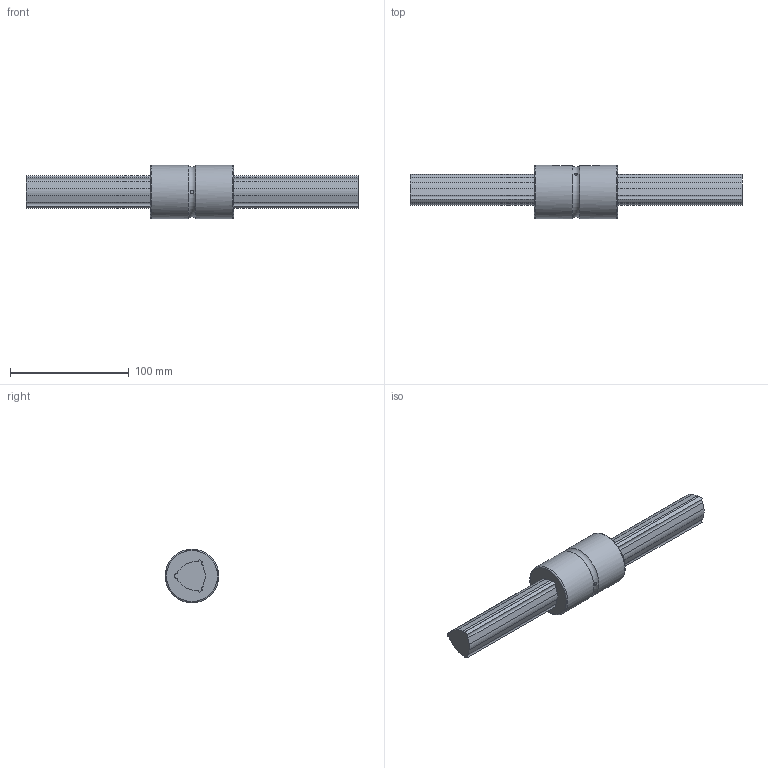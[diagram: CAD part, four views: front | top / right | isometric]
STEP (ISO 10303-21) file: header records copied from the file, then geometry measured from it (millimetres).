
FILE_DESCRIPTION(/* description */ ('STEP AP203'),/* implementation_level */ '2;1');
FILE_NAME(/* name */ 'LBS30+280L(701050)',/* time_stamp */ '2024-05-23T11:58:25+02:00',/* author */ ('License CC BY-ND 4.0'),/* organization */ ('CADENAS'),/* preprocessor_version */ 'ST-DEVELOPER v19.3',/* originating_system */ 'PARTsolutions',/* authorisation */ ' ');
FILE_SCHEMA (('CONFIG_CONTROL_DESIGN'));
Length unit declared in the file: millimetre
Products named in the file (3): LBS30+280L(701050); LBS30 Nut; LBS301280 Spline Shaft
Assembly tree (2 placements, depth 2):
  LBS30+280L(701050)
    LBS30 Nut
    LBS301280 Spline Shaft
Bounding box: 280 x 45 x 45 mm (x, y, z)
Volume: 207215 mm3; surface area: 43439.5 mm2
Topology: 2 solids, 2 shells, 56 faces, 148 edges, 99 vertices
Faces by surface type: cylinder 31, plane 22, torus 3
Full cylindrical faces by diameter (mm): 3 x3, 45 x2
Entity records: 1797 total; most frequent: CARTESIAN_POINT 342, DIRECTION 306, ORIENTED_EDGE 272, EDGE_CURVE 136, AXIS2_PLACEMENT_3D 118, VERTEX_POINT 94, LINE 70, VECTOR 70
